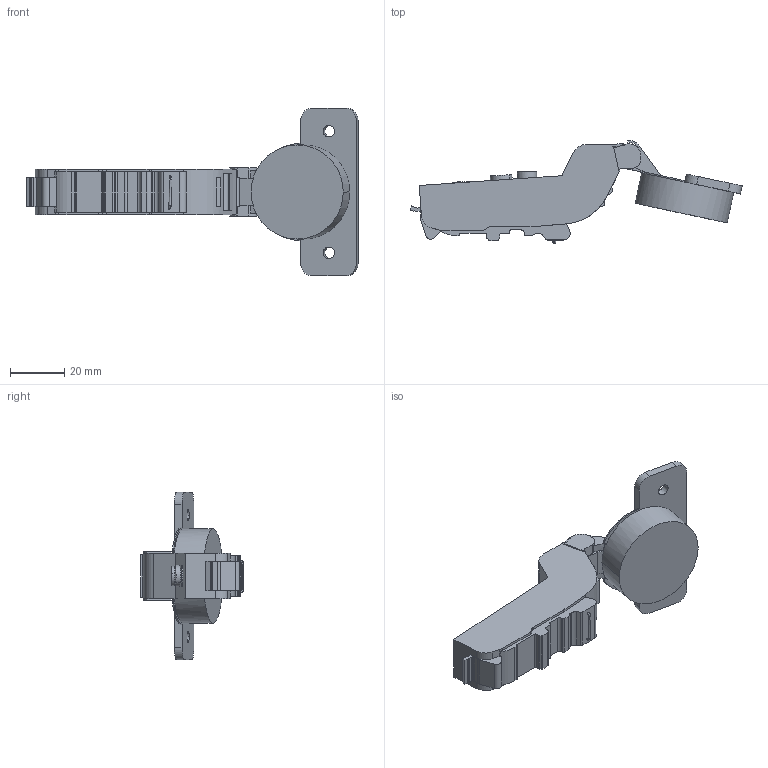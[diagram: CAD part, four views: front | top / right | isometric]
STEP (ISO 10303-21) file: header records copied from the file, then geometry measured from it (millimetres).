
FILE_DESCRIPTION (( 'STEP AP203' ), '1' );
FILE_NAME ('C81C875FAB-DTC3Dopen.STEP', '2023-06-09T05:22:37', ( 'Windows 蚚誧' ), ( '' ), 'SwSTEP 2.0', 'SolidWorks 2018', '' );
FILE_SCHEMA (( 'CONFIG_CONTROL_DESIGN' ));
Length unit declared in the file: millimetre
Products named in the file (1): C81C875FAB-DTC3Dopen
Bounding box: 122.76 x 38 x 62 mm (x, y, z)
Volume: 42903.1 mm3; surface area: 12914 mm2
Topology: 1 solids, 1 shells, 220 faces, 646 edges, 429 vertices
Faces by surface type: plane 106, cylinder 99, bspline 13, torus 2
Entity records: 8549 total; most frequent: CARTESIAN_POINT 2609, ORIENTED_EDGE 1292, DIRECTION 1193, EDGE_CURVE 646, VERTEX_POINT 429, AXIS2_PLACEMENT_3D 411, LINE 371, VECTOR 371
